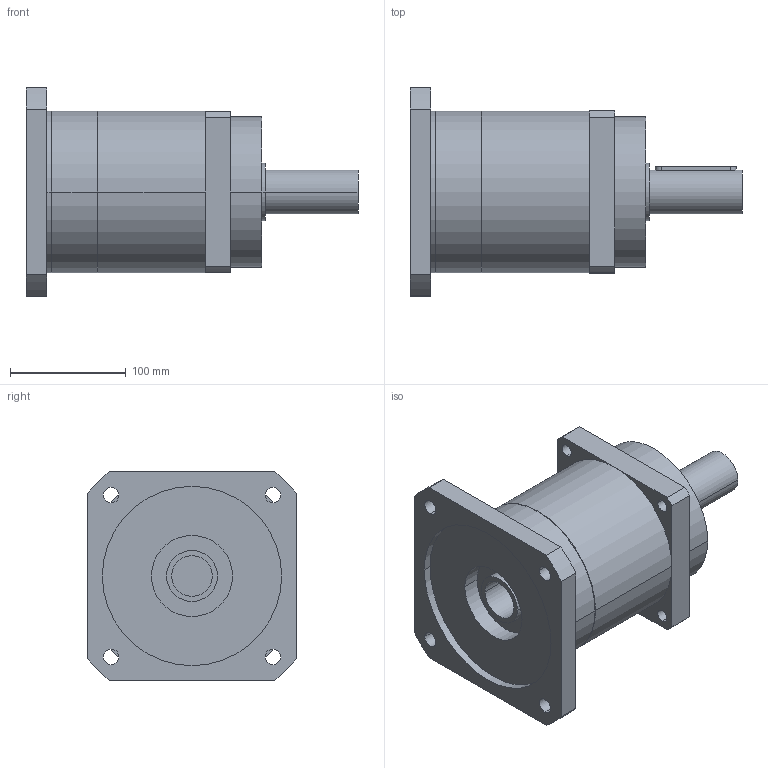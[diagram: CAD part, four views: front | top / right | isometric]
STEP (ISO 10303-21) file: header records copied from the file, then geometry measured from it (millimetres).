
FILE_DESCRIPTION(('CoCreate Modeling STEP Export'),'2;1');
FILE_NAME('GPR150_ig-3-4-5-7_38_B5_35_P11.stp','2014-08-19T16:43:17',(''),(''),'CoCreate Modeling STEP processor for AP214 (Solid Model)','CoCreate Modeling 16.00C 25-Feb-2009 (C) Parametric Technology GmbH','');
FILE_SCHEMA(('AUTOMOTIVE_DESIGN { 1 0 10303 214 1 1 1 1 }'));
Length unit declared in the file: millimetre
Products named in the file (2): GPR150_ig-3-4-5-7_38_B5_35_P11
Assembly tree (1 placements, depth 2):
  GPR150_ig-3-4-5-7_38_B5_35_P11
    GPR150_ig-3-4-5-7_38_B5_35_P11
Bounding box: 287 x 180 x 180 mm (x, y, z)
Volume: 3296156.6 mm3; surface area: 199144 mm2
Topology: 1 solids, 1 shells, 81 faces, 221 edges, 151 vertices
Faces by surface type: cylinder 48, plane 27, cone 6
Entity records: 2330 total; most frequent: ORIENTED_EDGE 438, CARTESIAN_POINT 432, DIRECTION 330, EDGE_CURVE 219, VERTEX_POINT 151, AXIS2_PLACEMENT_3D 121, EDGE_LOOP 108, VECTOR 88
